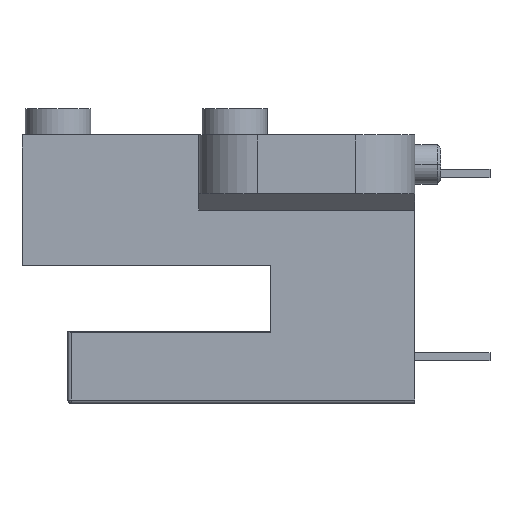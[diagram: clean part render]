
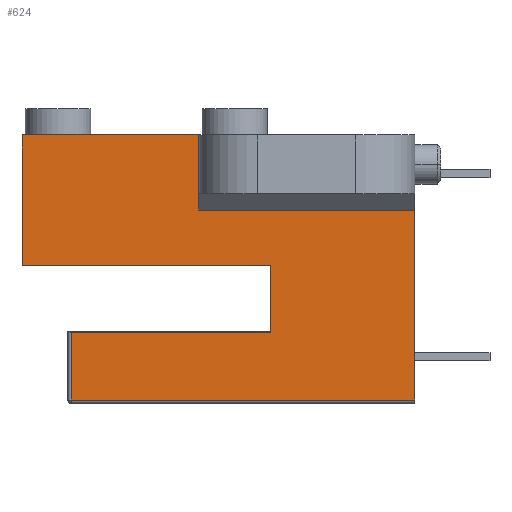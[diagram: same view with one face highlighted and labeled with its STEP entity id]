
A CAD part, left-side view. The second image highlights one B-rep face of the part: STEP entity #624.
In plain terms, the highlighted planar face has unit normal (-1, 0, 0).
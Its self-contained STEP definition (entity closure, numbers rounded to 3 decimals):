
#7 = EDGE_CURVE ( 'NONE', #237, #4565, #3864, .T. ) ;
#48 = VECTOR ( 'NONE', #1465, 1000. ) ;
#95 = VERTEX_POINT ( 'NONE', #1791 ) ;
#102 = ORIENTED_EDGE ( 'NONE', *, *, #186, .T. ) ;
#110 = VERTEX_POINT ( 'NONE', #3665 ) ;
#127 = EDGE_CURVE ( 'NONE', #4565, #1041, #1482, .T. ) ;
#169 = LINE ( 'NONE', #2437, #3117 ) ;
#184 = LINE ( 'NONE', #3101, #202 ) ;
#186 = EDGE_CURVE ( 'NONE', #2512, #95, #2943, .T. ) ;
#202 = VECTOR ( 'NONE', #2019, 1000. ) ;
#237 = VERTEX_POINT ( 'NONE', #1628 ) ;
#348 = LINE ( 'NONE', #1096, #2579 ) ;
#409 = CARTESIAN_POINT ( 'NONE',  ( -3.657, 0.641, 1.73 ) ) ;
#416 = CARTESIAN_POINT ( 'NONE',  ( -3.657, 0.641, 7.53 ) ) ;
#452 = VERTEX_POINT ( 'NONE', #2662 ) ;
#516 = PLANE ( 'NONE',  #668 ) ;
#582 = EDGE_CURVE ( 'NONE', #2707, #2512, #169, .T. ) ;
#604 = CARTESIAN_POINT ( 'NONE',  ( -3.657, 11.141, 9.83 ) ) ;
#619 = FACE_OUTER_BOUND ( 'NONE', #3943, .T. ) ;
#624 = ADVANCED_FACE ( 'NONE', ( #619 ), #516, .F. ) ;
#668 = AXIS2_PLACEMENT_3D ( 'NONE', #3837, #4200, #954 ) ;
#731 = CARTESIAN_POINT ( 'NONE',  ( -3.657, 11.241, 3.78 ) ) ;
#768 = VERTEX_POINT ( 'NONE', #3261 ) ;
#873 = ORIENTED_EDGE ( 'NONE', *, *, #3927, .T. ) ;
#954 = DIRECTION ( 'NONE',  ( 0., -1., 0. ) ) ;
#968 = VECTOR ( 'NONE', #2480, 1000. ) ;
#973 = VECTOR ( 'NONE', #3248, 1000. ) ;
#1041 = VERTEX_POINT ( 'NONE', #4073 ) ;
#1073 = LINE ( 'NONE', #731, #1658 ) ;
#1096 = CARTESIAN_POINT ( 'NONE',  ( -3.657, 12.641, 5.83 ) ) ;
#1116 = DIRECTION ( 'NONE',  ( 0., -1., 0. ) ) ;
#1135 = VECTOR ( 'NONE', #1853, 1000. ) ;
#1148 = EDGE_CURVE ( 'NONE', #768, #1703, #3552, .T. ) ;
#1250 = VERTEX_POINT ( 'NONE', #4051 ) ;
#1465 = DIRECTION ( 'NONE',  ( 0., 0., -1. ) ) ;
#1482 = LINE ( 'NONE', #2171, #48 ) ;
#1485 = EDGE_CURVE ( 'NONE', #452, #768, #1073, .T. ) ;
#1592 = CARTESIAN_POINT ( 'NONE',  ( -3.657, 11.141, 1.73 ) ) ;
#1628 = CARTESIAN_POINT ( 'NONE',  ( -3.657, 7.241, 9.83 ) ) ;
#1658 = VECTOR ( 'NONE', #3242, 1000. ) ;
#1703 = VERTEX_POINT ( 'NONE', #1592 ) ;
#1791 = CARTESIAN_POINT ( 'NONE',  ( -3.657, 7.241, 7.53 ) ) ;
#1843 = EDGE_CURVE ( 'NONE', #95, #110, #184, .T. ) ;
#1853 = DIRECTION ( 'NONE',  ( 0., -1., 0. ) ) ;
#1952 = ORIENTED_EDGE ( 'NONE', *, *, #4417, .T. ) ;
#1961 = VECTOR ( 'NONE', #3500, 1000. ) ;
#2019 = DIRECTION ( 'NONE',  ( 0., 0., 1. ) ) ;
#2073 = DIRECTION ( 'NONE',  ( 0., 0., 1. ) ) ;
#2171 = CARTESIAN_POINT ( 'NONE',  ( -3.657, 12.641, 9.83 ) ) ;
#2178 = ORIENTED_EDGE ( 'NONE', *, *, #1148, .T. ) ;
#2227 = ORIENTED_EDGE ( 'NONE', *, *, #1843, .T. ) ;
#2304 = DIRECTION ( 'NONE',  ( 0., 0., -1. ) ) ;
#2309 = ORIENTED_EDGE ( 'NONE', *, *, #582, .T. ) ;
#2332 = CARTESIAN_POINT ( 'NONE',  ( -3.657, 12.641, 9.83 ) ) ;
#2399 = CARTESIAN_POINT ( 'NONE',  ( -3.657, 7.241, 9.83 ) ) ;
#2437 = CARTESIAN_POINT ( 'NONE',  ( -3.657, 0.641, 1.63 ) ) ;
#2480 = DIRECTION ( 'NONE',  ( 0., 0., -1. ) ) ;
#2483 = EDGE_CURVE ( 'NONE', #1703, #2707, #3223, .T. ) ;
#2512 = VERTEX_POINT ( 'NONE', #416 ) ;
#2579 = VECTOR ( 'NONE', #1116, 1000. ) ;
#2596 = CARTESIAN_POINT ( 'NONE',  ( -3.657, 0.641, 7.53 ) ) ;
#2662 = CARTESIAN_POINT ( 'NONE',  ( -3.657, 5.041, 3.78 ) ) ;
#2685 = CARTESIAN_POINT ( 'NONE',  ( -3.657, 5.041, 5.83 ) ) ;
#2707 = VERTEX_POINT ( 'NONE', #409 ) ;
#2796 = CARTESIAN_POINT ( 'NONE',  ( -3.657, 7.241, 9.83 ) ) ;
#2943 = LINE ( 'NONE', #2596, #3689 ) ;
#3101 = CARTESIAN_POINT ( 'NONE',  ( -3.657, 7.241, 7.53 ) ) ;
#3117 = VECTOR ( 'NONE', #2073, 1000. ) ;
#3223 = LINE ( 'NONE', #3607, #1135 ) ;
#3242 = DIRECTION ( 'NONE',  ( 0., 1., 0. ) ) ;
#3248 = DIRECTION ( 'NONE',  ( 0., 0., -1. ) ) ;
#3249 = VECTOR ( 'NONE', #2304, 1000. ) ;
#3261 = CARTESIAN_POINT ( 'NONE',  ( -3.657, 11.141, 3.78 ) ) ;
#3394 = ORIENTED_EDGE ( 'NONE', *, *, #7, .T. ) ;
#3500 = DIRECTION ( 'NONE',  ( 0., 1., 0. ) ) ;
#3552 = LINE ( 'NONE', #604, #973 ) ;
#3572 = ORIENTED_EDGE ( 'NONE', *, *, #4299, .F. ) ;
#3607 = CARTESIAN_POINT ( 'NONE',  ( -3.657, 2.771, 1.73 ) ) ;
#3665 = CARTESIAN_POINT ( 'NONE',  ( -3.657, 7.241, 7.58 ) ) ;
#3689 = VECTOR ( 'NONE', #4036, 1000. ) ;
#3837 = CARTESIAN_POINT ( 'NONE',  ( -3.657, 2.771, 9.83 ) ) ;
#3864 = LINE ( 'NONE', #2399, #1961 ) ;
#3927 = EDGE_CURVE ( 'NONE', #1250, #452, #4439, .T. ) ;
#3943 = EDGE_LOOP ( 'NONE', ( #873, #4680, #2178, #4316, #2309, #102, #2227, #3572, #3394, #4067, #1952 ) ) ;
#4036 = DIRECTION ( 'NONE',  ( 0., 1., 0. ) ) ;
#4051 = CARTESIAN_POINT ( 'NONE',  ( -3.657, 5.041, 5.83 ) ) ;
#4067 = ORIENTED_EDGE ( 'NONE', *, *, #127, .T. ) ;
#4073 = CARTESIAN_POINT ( 'NONE',  ( -3.657, 12.641, 5.83 ) ) ;
#4184 = LINE ( 'NONE', #2796, #968 ) ;
#4200 = DIRECTION ( 'NONE',  ( 1., 0., 0. ) ) ;
#4299 = EDGE_CURVE ( 'NONE', #237, #110, #4184, .T. ) ;
#4316 = ORIENTED_EDGE ( 'NONE', *, *, #2483, .T. ) ;
#4417 = EDGE_CURVE ( 'NONE', #1041, #1250, #348, .T. ) ;
#4439 = LINE ( 'NONE', #2685, #3249 ) ;
#4565 = VERTEX_POINT ( 'NONE', #2332 ) ;
#4680 = ORIENTED_EDGE ( 'NONE', *, *, #1485, .T. ) ;
